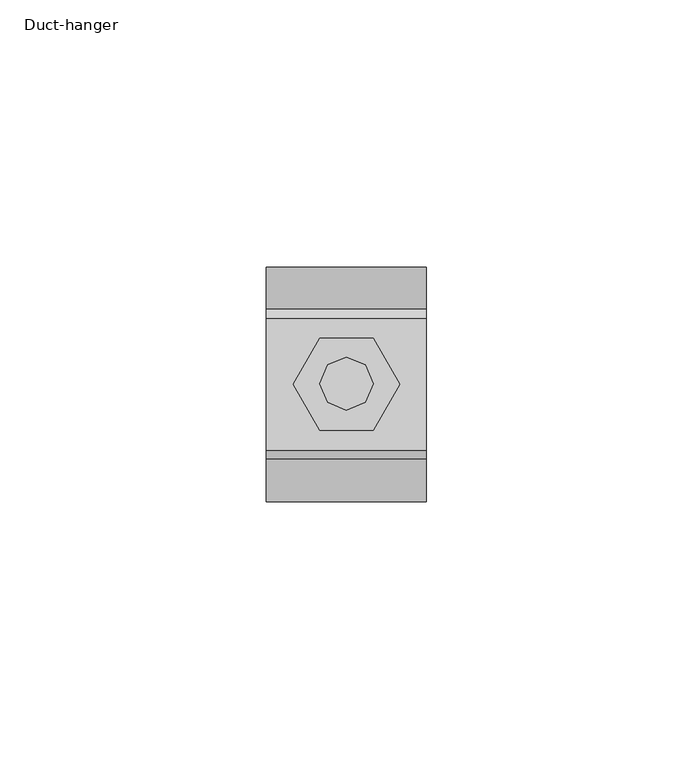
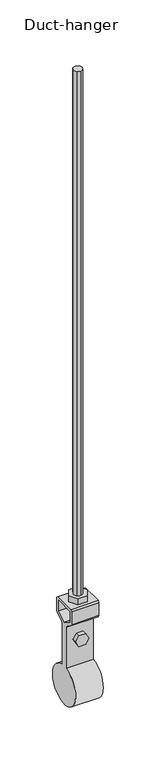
"""IFC4 building model written with IfcOpenShell, lengths in millimetres: proxy geometry, Duct-hanger : Φ44."""

from ifc_helpers import new_model, si_unit, point, frame, frame_2d, origin, place, context, project, spatial, polyline, circle_curve, trimmed, segment, composite_curve, outline, extrude, source, transform, mapped, element, save


def duct_hanger_4be9b570(model_context):
    return source(origin(), model_context, "Body", "SweptSolid", [
        extrude(outline(polyline([(3.5351563, 3.5351563), (5.0003052, 0.0), (3.5351563, -3.5351563), (0.0, -5.0), (-3.5354614, -3.5351563), (-5.0, 0.0), (-3.5354614, 3.5351563), (0.0, 5.0), (3.5351563, 3.5351563)])), frame((0.0, 0.0, -614.4476844), z_axis=(0.0, 0.0, 1.0), x_axis=(1.0, 0.0, 0.0)), (0.0, 0.0, 1.0), 614.4476844),
        extrude(outline(polyline([(5.0, 8.659668), (10.0, 0.0), (5.0, -8.659668), (-5.0, -8.659668), (-10.0, 0.0), (-5.0, 8.659668), (5.0, 8.659668)])), frame((0.0, 0.0, -614.4476844), z_axis=(0.0, 0.0, 1.0), x_axis=(1.0, 0.0, 0.0)), (0.0, 0.0, 1.0), 6.6101074),
        extrude(outline(polyline([(-651.4630142, -3.5931396), (-657.6864639, -7.1862793), (-663.9099136, -3.5931396), (-663.9099136, 3.5931396), (-657.6864639, 7.1862793), (-651.4630142, 3.5931396), (-651.4630142, -3.5931396)])), frame((0.0, -8.2446289, 0.0), z_axis=(0.0, 1.0, 0.0), x_axis=(0.0, 0.0, 1.0)), (0.0, 0.0, 1.0), 16.4892578),
        extrude(outline(composite_curve([segment(polyline([(14.0234375, -616.1163856), (14.0234375, -630.7660438), (12.8845215, -632.832389), (4.6337891, -638.0402137), (3.494873, -640.1071693), (3.494873, -687.6864639)]), True, "CONTINUOUS"), segment(trimmed(circle_curve(frame_2d((0.0, -709.4070961)), 22.0), [point((3.494873, -687.6864639))], [point((-3.494873, -687.6864639))], False, "CARTESIAN"), True, "CONTINUOUS"), segment(polyline([(-3.494873, -687.6864639), (-3.494873, -640.1071693), (-4.6337891, -638.0402137), (-12.8845215, -632.832389), (-14.0234375, -630.7660438), (-14.0234375, -616.1163856), (-12.3547363, -614.4476844), (12.3547363, -614.4476844), (14.0234375, -616.1163856)]), True, "CONTINUOUS")], self_intersect=False), holes=[polyline([(0.0, -636.7140608), (10.7531738, -629.9274208), (10.7531738, -617.7011634), (-10.7531738, -617.7011634), (-10.7531738, -629.9274208), (0.0, -636.7140608)])]), frame((-15.0, 0.0, 0.0), z_axis=(1.0, 0.0, 0.0), x_axis=(0.0, 1.0, 0.0)), (0.0, 0.0, 1.0), 30.0),
    ])


if __name__ == "__main__":
    model = new_model("IFC4")
    model_context = context("Model", 3, world=origin())
    ifc_project = project(units=[si_unit("LENGTHUNIT", "METRE", prefix="MILLI")], contexts=[model_context])
    site = spatial("IfcSite", under=ifc_project)
    building = spatial("IfcBuilding", under=site)
    placement = place(None, origin())
    duct_hanger_shape = duct_hanger_4be9b570(model_context)
    element("IfcBuildingElementProxy", 1, Name="Duct-hanger : Φ44", ObjectType="Duct-hanger : Φ44", at=placement, inside=building, context=model_context, shape_type="MappedRepresentation", body=[
        mapped(duct_hanger_shape, transform((0.0, 0.0, 0.0), x_axis=(1.0, 0.0, 0.0), y_axis=(0.0, 1.0, 0.0), z_axis=(0.0, 0.0, 1.0))),
    ])
    save(model, "model.ifc")
